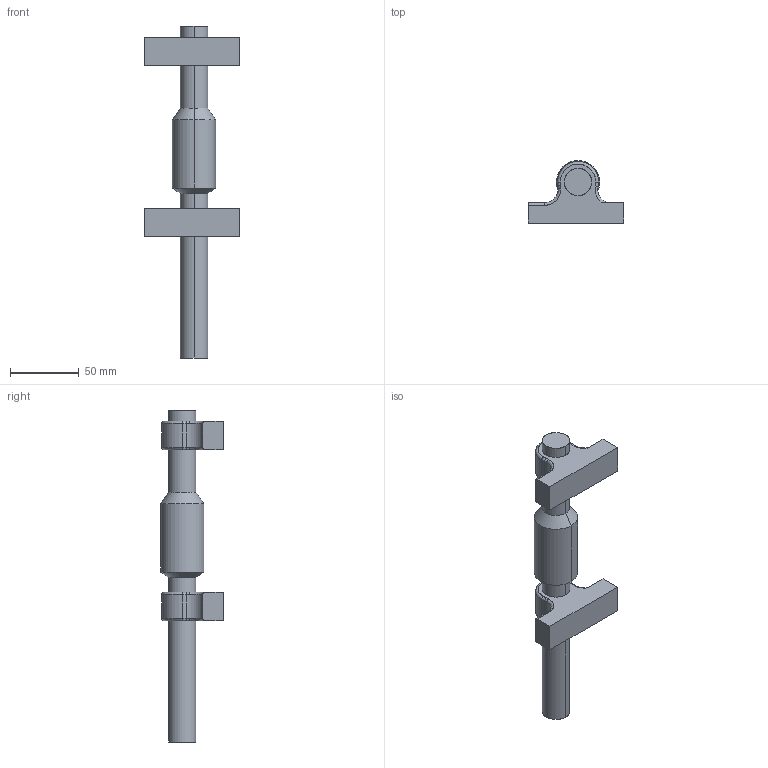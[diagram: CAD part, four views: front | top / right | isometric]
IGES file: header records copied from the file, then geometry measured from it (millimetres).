
Start section: SolidWorks IGES file using analytic representation for surfaces
Global section: file name: C:\Documents and Settings\Pc\Escritorio\Modelos 3D\Capítulo 2 (Frecuencia)\PRACTICA PROPUESTA\P-3\Ensamblaje1.IGS; native system: SolidWorks 2010; preprocessor: SolidWorks 2010; author: Pc; date: 100623.113243; units: millimetre
Bounding box: 70 x 45.78 x 242.3 mm (x, y, z)
Surface area: 35672.2 mm2 (no closed solid volume)
Topology: 0 solids, 0 shells, 70 faces, 728 edges, 728 vertices
Faces by surface type: bspline 40, revolution 30
